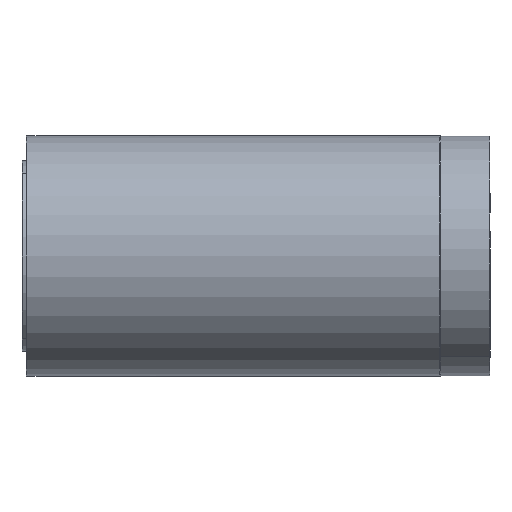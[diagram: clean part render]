
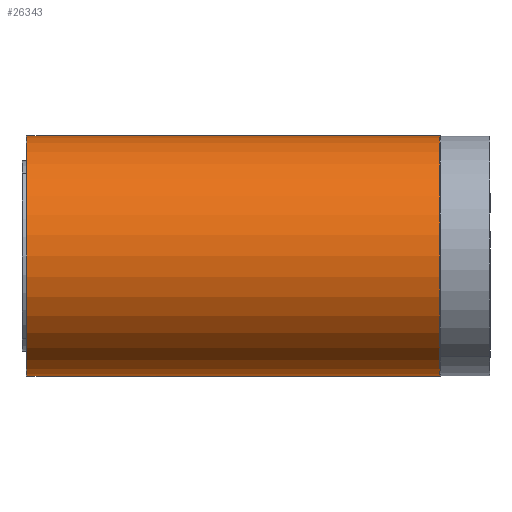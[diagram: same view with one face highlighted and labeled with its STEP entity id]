
A CAD part, left-side view. The second image highlights one B-rep face of the part: STEP entity #26343.
In plain terms, the highlighted cylindrical face has radius 29 mm (diameter 58 mm), a partial arc.
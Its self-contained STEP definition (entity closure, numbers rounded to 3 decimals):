
#973=B_SPLINE_CURVE_WITH_KNOTS('',3,(#52257,#52258,#52259,#52260,#52261,
#52262,#52263,#52264,#52265,#52266,#52267,#52268,#52269,#52270,#52271,#52272),
 .UNSPECIFIED.,.F.,.F.,(4,3,3,3,3,4),(-0.482,-0.46,
-0.388,-0.34,-0.268,-0.241),
 .UNSPECIFIED.);
#976=B_SPLINE_CURVE_WITH_KNOTS('',3,(#52312,#52313,#52314,#52315,#52316,
#52317,#52318,#52319,#52320,#52321,#52322,#52323,#52324,#52325,#52326,#52327),
 .UNSPECIFIED.,.F.,.F.,(4,3,3,3,3,4),(-0.723,-0.701,
-0.629,-0.58,-0.508,-0.482),
 .UNSPECIFIED.);
#980=B_SPLINE_CURVE_WITH_KNOTS('',3,(#52435,#52436,#52437,#52438,#52439,
#52440,#52441,#52442,#52443,#52444,#52445,#52446,#52447,#52448,#52449,#52450),
 .UNSPECIFIED.,.F.,.F.,(4,3,3,3,3,4),(0.482,0.508,
0.58,0.629,0.701,0.723),
 .UNSPECIFIED.);
#981=B_SPLINE_CURVE_WITH_KNOTS('',3,(#52454,#52455,#52456,#52457,#52458,
#52459,#52460,#52461,#52462,#52463,#52464,#52465,#52466,#52467,#52468,#52469),
 .UNSPECIFIED.,.F.,.F.,(4,3,3,3,3,4),(0.241,0.268,
0.34,0.388,0.46,0.482),
 .UNSPECIFIED.);
#1601=LINE('',#52434,#1882);
#1602=LINE('',#52451,#1883);
#1603=LINE('',#52452,#1884);
#1604=LINE('',#52470,#1885);
#1882=VECTOR('',#35143,1000.);
#1883=VECTOR('',#35144,1000.);
#1884=VECTOR('',#35145,1000.);
#1885=VECTOR('',#35146,1000.);
#2061=CYLINDRICAL_SURFACE('',#28586,29.);
#2441=FACE_OUTER_BOUND('',#4234,.T.);
#4234=EDGE_LOOP('',(#18037,#18038,#18039,#18040,#18041,#18042,#18043,#18044,
#18045,#18046));
#6157=CIRCLE('',#28568,29.);
#6161=CIRCLE('',#28573,29.);
#9939=VERTEX_POINT('',#52201);
#9944=VERTEX_POINT('',#52255);
#9948=VERTEX_POINT('',#52294);
#9949=VERTEX_POINT('',#52311);
#9955=VERTEX_POINT('',#52356);
#9956=VERTEX_POINT('',#52357);
#9959=VERTEX_POINT('',#52365);
#9960=VERTEX_POINT('',#52366);
#9973=VERTEX_POINT('',#52433);
#9974=VERTEX_POINT('',#52453);
#12910=EDGE_CURVE('',#9944,#9939,#973,.T.);
#12914=EDGE_CURVE('',#9948,#9949,#976,.T.);
#12921=EDGE_CURVE('',#9955,#9956,#6157,.T.);
#12925=EDGE_CURVE('',#9959,#9960,#6161,.T.);
#12945=EDGE_CURVE('',#9960,#9973,#1601,.T.);
#12946=EDGE_CURVE('',#9949,#9973,#980,.T.);
#12947=EDGE_CURVE('',#9948,#9955,#1602,.T.);
#12948=EDGE_CURVE('',#9939,#9956,#1603,.T.);
#12949=EDGE_CURVE('',#9974,#9944,#981,.T.);
#12950=EDGE_CURVE('',#9959,#9974,#1604,.T.);
#18037=ORIENTED_EDGE('',*,*,#12925,.T.);
#18038=ORIENTED_EDGE('',*,*,#12945,.T.);
#18039=ORIENTED_EDGE('',*,*,#12946,.F.);
#18040=ORIENTED_EDGE('',*,*,#12914,.F.);
#18041=ORIENTED_EDGE('',*,*,#12947,.T.);
#18042=ORIENTED_EDGE('',*,*,#12921,.T.);
#18043=ORIENTED_EDGE('',*,*,#12948,.F.);
#18044=ORIENTED_EDGE('',*,*,#12910,.F.);
#18045=ORIENTED_EDGE('',*,*,#12949,.F.);
#18046=ORIENTED_EDGE('',*,*,#12950,.F.);
#26343=ADVANCED_FACE('',(#2441),#2061,.T.);
#28568=AXIS2_PLACEMENT_3D('',#52358,#35097,#35098);
#28573=AXIS2_PLACEMENT_3D('',#52367,#35107,#35108);
#28586=AXIS2_PLACEMENT_3D('',#52432,#35141,#35142);
#35097=DIRECTION('center_axis',(0.,1.,0.));
#35098=DIRECTION('ref_axis',(0.,0.,-1.));
#35107=DIRECTION('center_axis',(0.,-1.,0.));
#35108=DIRECTION('ref_axis',(0.,0.,1.));
#35141=DIRECTION('center_axis',(0.,-1.,0.));
#35142=DIRECTION('ref_axis',(0.,0.,-1.));
#35143=DIRECTION('',(0.,-1.,0.));
#35144=DIRECTION('',(0.,-1.,0.));
#35145=DIRECTION('',(0.,-1.,0.));
#35146=DIRECTION('',(0.,-1.,0.));
#52201=CARTESIAN_POINT('',(0.,93.4,-29.));
#52255=CARTESIAN_POINT('',(1.6,95.,-28.956));
#52257=CARTESIAN_POINT('Ctrl Pts',(1.6,95.,-28.956));
#52258=CARTESIAN_POINT('Ctrl Pts',(1.6,94.924,-28.956));
#52259=CARTESIAN_POINT('Ctrl Pts',(1.595,94.847,-28.956));
#52260=CARTESIAN_POINT('Ctrl Pts',(1.583,94.77,-28.957));
#52261=CARTESIAN_POINT('Ctrl Pts',(1.548,94.524,-28.959));
#52262=CARTESIAN_POINT('Ctrl Pts',(1.449,94.277,-28.964));
#52263=CARTESIAN_POINT('Ctrl Pts',(1.305,94.074,-28.971));
#52264=CARTESIAN_POINT('Ctrl Pts',(1.208,93.938,-28.975));
#52265=CARTESIAN_POINT('Ctrl Pts',(1.097,93.824,-28.98));
#52266=CARTESIAN_POINT('Ctrl Pts',(0.965,93.724,-28.984));
#52267=CARTESIAN_POINT('Ctrl Pts',(0.767,93.574,-28.991));
#52268=CARTESIAN_POINT('Ctrl Pts',(0.523,93.467,-28.996));
#52269=CARTESIAN_POINT('Ctrl Pts',(0.277,93.424,-28.999));
#52270=CARTESIAN_POINT('Ctrl Pts',(0.184,93.408,-29.));
#52271=CARTESIAN_POINT('Ctrl Pts',(0.092,93.4,-29.));
#52272=CARTESIAN_POINT('Ctrl Pts',(0.,93.4,-29.));
#52294=CARTESIAN_POINT('',(0.,93.4,29.));
#52311=CARTESIAN_POINT('',(1.6,95.,28.956));
#52312=CARTESIAN_POINT('Ctrl Pts',(0.,93.4,29.));
#52313=CARTESIAN_POINT('Ctrl Pts',(0.077,93.4,29.));
#52314=CARTESIAN_POINT('Ctrl Pts',(0.155,93.406,29.));
#52315=CARTESIAN_POINT('Ctrl Pts',(0.233,93.417,28.999));
#52316=CARTESIAN_POINT('Ctrl Pts',(0.479,93.453,28.997));
#52317=CARTESIAN_POINT('Ctrl Pts',(0.726,93.552,28.992));
#52318=CARTESIAN_POINT('Ctrl Pts',(0.929,93.697,28.985));
#52319=CARTESIAN_POINT('Ctrl Pts',(1.068,93.796,28.981));
#52320=CARTESIAN_POINT('Ctrl Pts',(1.185,93.911,28.976));
#52321=CARTESIAN_POINT('Ctrl Pts',(1.286,94.048,28.971));
#52322=CARTESIAN_POINT('Ctrl Pts',(1.433,94.247,28.965));
#52323=CARTESIAN_POINT('Ctrl Pts',(1.536,94.489,28.959));
#52324=CARTESIAN_POINT('Ctrl Pts',(1.578,94.734,28.957));
#52325=CARTESIAN_POINT('Ctrl Pts',(1.593,94.823,28.956));
#52326=CARTESIAN_POINT('Ctrl Pts',(1.6,94.912,28.956));
#52327=CARTESIAN_POINT('Ctrl Pts',(1.6,95.,28.956));
#52356=CARTESIAN_POINT('',(0.,0.1,29.));
#52357=CARTESIAN_POINT('',(0.,0.1,-29.));
#52358=CARTESIAN_POINT('Origin',(0.,0.1,0.));
#52365=CARTESIAN_POINT('',(0.,99.9,-29.));
#52366=CARTESIAN_POINT('',(0.,99.9,29.));
#52367=CARTESIAN_POINT('Origin',(0.,99.9,0.));
#52432=CARTESIAN_POINT('Origin',(0.,0.,0.));
#52433=CARTESIAN_POINT('',(0.,96.6,29.));
#52434=CARTESIAN_POINT('',(0.,0.,29.));
#52435=CARTESIAN_POINT('Ctrl Pts',(1.6,95.,28.956));
#52436=CARTESIAN_POINT('Ctrl Pts',(1.6,95.088,28.956));
#52437=CARTESIAN_POINT('Ctrl Pts',(1.593,95.177,28.956));
#52438=CARTESIAN_POINT('Ctrl Pts',(1.578,95.266,28.957));
#52439=CARTESIAN_POINT('Ctrl Pts',(1.536,95.511,28.959));
#52440=CARTESIAN_POINT('Ctrl Pts',(1.433,95.753,28.965));
#52441=CARTESIAN_POINT('Ctrl Pts',(1.286,95.952,28.971));
#52442=CARTESIAN_POINT('Ctrl Pts',(1.185,96.089,28.976));
#52443=CARTESIAN_POINT('Ctrl Pts',(1.068,96.204,28.981));
#52444=CARTESIAN_POINT('Ctrl Pts',(0.929,96.303,28.985));
#52445=CARTESIAN_POINT('Ctrl Pts',(0.726,96.448,28.992));
#52446=CARTESIAN_POINT('Ctrl Pts',(0.479,96.547,28.997));
#52447=CARTESIAN_POINT('Ctrl Pts',(0.233,96.583,28.999));
#52448=CARTESIAN_POINT('Ctrl Pts',(0.155,96.594,29.));
#52449=CARTESIAN_POINT('Ctrl Pts',(0.077,96.6,29.));
#52450=CARTESIAN_POINT('Ctrl Pts',(0.,96.6,29.));
#52451=CARTESIAN_POINT('',(0.,0.,29.));
#52452=CARTESIAN_POINT('',(0.,0.,-29.));
#52453=CARTESIAN_POINT('',(0.,96.6,-29.));
#52454=CARTESIAN_POINT('Ctrl Pts',(0.,96.6,-29.));
#52455=CARTESIAN_POINT('Ctrl Pts',(0.092,96.6,-29.));
#52456=CARTESIAN_POINT('Ctrl Pts',(0.184,96.592,-29.));
#52457=CARTESIAN_POINT('Ctrl Pts',(0.277,96.576,-28.999));
#52458=CARTESIAN_POINT('Ctrl Pts',(0.523,96.533,-28.996));
#52459=CARTESIAN_POINT('Ctrl Pts',(0.767,96.426,-28.991));
#52460=CARTESIAN_POINT('Ctrl Pts',(0.965,96.276,-28.984));
#52461=CARTESIAN_POINT('Ctrl Pts',(1.097,96.176,-28.98));
#52462=CARTESIAN_POINT('Ctrl Pts',(1.208,96.062,-28.975));
#52463=CARTESIAN_POINT('Ctrl Pts',(1.305,95.926,-28.971));
#52464=CARTESIAN_POINT('Ctrl Pts',(1.449,95.723,-28.964));
#52465=CARTESIAN_POINT('Ctrl Pts',(1.548,95.476,-28.959));
#52466=CARTESIAN_POINT('Ctrl Pts',(1.583,95.23,-28.957));
#52467=CARTESIAN_POINT('Ctrl Pts',(1.595,95.153,-28.956));
#52468=CARTESIAN_POINT('Ctrl Pts',(1.6,95.076,-28.956));
#52469=CARTESIAN_POINT('Ctrl Pts',(1.6,95.,-28.956));
#52470=CARTESIAN_POINT('',(0.,0.,-29.));
